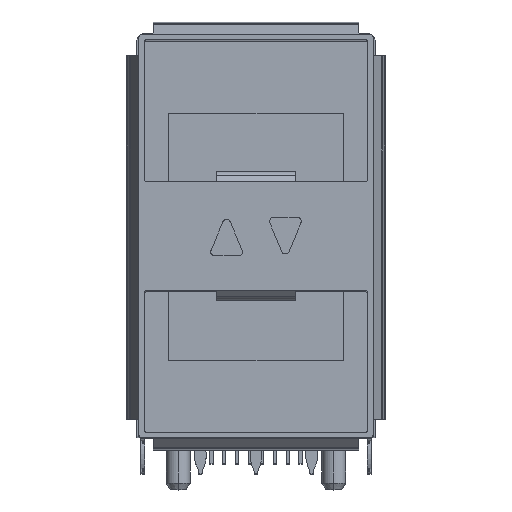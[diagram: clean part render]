
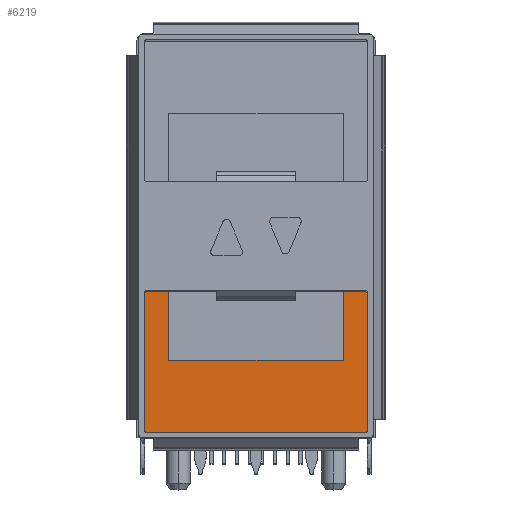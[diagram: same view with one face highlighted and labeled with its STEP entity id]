
A CAD part, top view. The second image highlights one B-rep face of the part: STEP entity #6219.
In plain terms, the highlighted planar face has unit normal (0, 0, 1).
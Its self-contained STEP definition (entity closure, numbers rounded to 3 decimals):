
#51 = LINE ( 'NONE', #19253, #12035 ) ;
#255 = CARTESIAN_POINT ( 'NONE',  ( 6.9, 9.1, -48.55 ) ) ;
#759 = CARTESIAN_POINT ( 'NONE',  ( -5.5, 9.2, -48.55 ) ) ;
#920 = VECTOR ( 'NONE', #9805, 1000. ) ;
#1349 = VERTEX_POINT ( 'NONE', #10793 ) ;
#3744 = EDGE_CURVE ( 'NONE', #7233, #8534, #22080, .T. ) ;
#4230 = DIRECTION ( 'NONE',  ( 1., 0., 0. ) ) ;
#4273 = CARTESIAN_POINT ( 'NONE',  ( -5.5, 4.85, -48.55 ) ) ;
#5863 = VERTEX_POINT ( 'NONE', #11799 ) ;
#6051 = PLANE ( 'NONE',  #16757 ) ;
#6219 = ADVANCED_FACE ( 'NONE', ( #9412 ), #6051, .F. ) ;
#7091 = AXIS2_PLACEMENT_3D ( 'NONE', #25656, #25333, #25233 ) ;
#7233 = VERTEX_POINT ( 'NONE', #19615 ) ;
#7887 = VECTOR ( 'NONE', #28597, 1000. ) ;
#7916 = LINE ( 'NONE', #28732, #7887 ) ;
#8124 = EDGE_CURVE ( 'NONE', #20301, #29019, #27678, .T. ) ;
#8534 = VERTEX_POINT ( 'NONE', #21767 ) ;
#8625 = EDGE_CURVE ( 'NONE', #24031, #10045, #18152, .T. ) ;
#8901 = EDGE_CURVE ( 'NONE', #8534, #5863, #10926, .T. ) ;
#9412 = FACE_OUTER_BOUND ( 'NONE', #11066, .T. ) ;
#9805 = DIRECTION ( 'NONE',  ( 0., 1., 0. ) ) ;
#10045 = VERTEX_POINT ( 'NONE', #31260 ) ;
#10793 = CARTESIAN_POINT ( 'NONE',  ( 6.9, 0.25, -48.55 ) ) ;
#10851 = CARTESIAN_POINT ( 'NONE',  ( 5.5, 4.85, -48.55 ) ) ;
#10926 = LINE ( 'NONE', #11126, #11283 ) ;
#11066 = EDGE_LOOP ( 'NONE', ( #26384, #21239, #13215, #12730, #11674, #25884, #16436, #14067, #28497, #15850, #11842, #20596 ) ) ;
#11126 = CARTESIAN_POINT ( 'NONE',  ( 7., 9.1, -48.55 ) ) ;
#11229 = DIRECTION ( 'NONE',  ( 0., -1., 0. ) ) ;
#11283 = VECTOR ( 'NONE', #11229, 1000. ) ;
#11440 = CIRCLE ( 'NONE', #7091, 0.1 ) ;
#11674 = ORIENTED_EDGE ( 'NONE', *, *, #22234, .F. ) ;
#11799 = CARTESIAN_POINT ( 'NONE',  ( 7., 0.35, -48.55 ) ) ;
#11842 = ORIENTED_EDGE ( 'NONE', *, *, #30490, .F. ) ;
#12035 = VECTOR ( 'NONE', #18933, 1000. ) ;
#12665 = AXIS2_PLACEMENT_3D ( 'NONE', #23026, #22819, #22705 ) ;
#12730 = ORIENTED_EDGE ( 'NONE', *, *, #8625, .F. ) ;
#12958 = LINE ( 'NONE', #28440, #920 ) ;
#13043 = DIRECTION ( 'NONE',  ( 0., 0., -1. ) ) ;
#13215 = ORIENTED_EDGE ( 'NONE', *, *, #21439, .F. ) ;
#13501 = DIRECTION ( 'NONE',  ( -1., 0., 0. ) ) ;
#13590 = EDGE_CURVE ( 'NONE', #5863, #1349, #11440, .T. ) ;
#13637 = CARTESIAN_POINT ( 'NONE',  ( -6.9, 0.25, -48.55 ) ) ;
#14067 = ORIENTED_EDGE ( 'NONE', *, *, #8124, .F. ) ;
#14461 = VECTOR ( 'NONE', #16776, 1000. ) ;
#15219 = LINE ( 'NONE', #24012, #14461 ) ;
#15850 = ORIENTED_EDGE ( 'NONE', *, *, #18440, .F. ) ;
#16436 = ORIENTED_EDGE ( 'NONE', *, *, #26075, .F. ) ;
#16612 = DIRECTION ( 'NONE',  ( -1., 0., 0. ) ) ;
#16757 = AXIS2_PLACEMENT_3D ( 'NONE', #18116, #27889, #29020 ) ;
#16776 = DIRECTION ( 'NONE',  ( -1., 0., 0. ) ) ;
#17104 = VECTOR ( 'NONE', #19441, 1000. ) ;
#17214 = DIRECTION ( 'NONE',  ( 0., 0., -1. ) ) ;
#17634 = CARTESIAN_POINT ( 'NONE',  ( -6.9, 9.2, -48.55 ) ) ;
#17843 = CIRCLE ( 'NONE', #12665, 0.1 ) ;
#18116 = CARTESIAN_POINT ( 'NONE',  ( -7.25, 25.2, -48.55 ) ) ;
#18152 = LINE ( 'NONE', #19004, #17104 ) ;
#18440 = EDGE_CURVE ( 'NONE', #23267, #21080, #17843, .T. ) ;
#18933 = DIRECTION ( 'NONE',  ( 1., 0., 0. ) ) ;
#19004 = CARTESIAN_POINT ( 'NONE',  ( 5.5, 4.85, -48.55 ) ) ;
#19253 = CARTESIAN_POINT ( 'NONE',  ( -5.5, 9.2, -48.55 ) ) ;
#19348 = CARTESIAN_POINT ( 'NONE',  ( -5.5, 4.85, -48.55 ) ) ;
#19441 = DIRECTION ( 'NONE',  ( 0., 1., 0. ) ) ;
#19615 = CARTESIAN_POINT ( 'NONE',  ( 6.9, 9.2, -48.55 ) ) ;
#19688 = VECTOR ( 'NONE', #4230, 1000. ) ;
#19740 = LINE ( 'NONE', #4273, #19688 ) ;
#20122 = DIRECTION ( 'NONE',  ( 1., 0., 0. ) ) ;
#20190 = CARTESIAN_POINT ( 'NONE',  ( 5.5, 9.2, -48.55 ) ) ;
#20301 = VERTEX_POINT ( 'NONE', #22043 ) ;
#20596 = ORIENTED_EDGE ( 'NONE', *, *, #13590, .F. ) ;
#21080 = VERTEX_POINT ( 'NONE', #26176 ) ;
#21239 = ORIENTED_EDGE ( 'NONE', *, *, #3744, .F. ) ;
#21439 = EDGE_CURVE ( 'NONE', #10045, #7233, #24506, .T. ) ;
#21767 = CARTESIAN_POINT ( 'NONE',  ( 7., 9.1, -48.55 ) ) ;
#22043 = CARTESIAN_POINT ( 'NONE',  ( -7., 9.1, -48.55 ) ) ;
#22080 = CIRCLE ( 'NONE', #29093, 0.1 ) ;
#22234 = EDGE_CURVE ( 'NONE', #29002, #24031, #19740, .T. ) ;
#22705 = DIRECTION ( 'NONE',  ( -1., 0., 0. ) ) ;
#22819 = DIRECTION ( 'NONE',  ( 0., 0., -1. ) ) ;
#23026 = CARTESIAN_POINT ( 'NONE',  ( -6.9, 0.35, -48.55 ) ) ;
#23267 = VERTEX_POINT ( 'NONE', #13637 ) ;
#24012 = CARTESIAN_POINT ( 'NONE',  ( 6.9, 0.25, -48.55 ) ) ;
#24031 = VERTEX_POINT ( 'NONE', #10851 ) ;
#24349 = VECTOR ( 'NONE', #20122, 1000. ) ;
#24409 = EDGE_CURVE ( 'NONE', #28769, #29002, #7916, .T. ) ;
#24506 = LINE ( 'NONE', #20190, #24349 ) ;
#25233 = DIRECTION ( 'NONE',  ( -1., 0., 0. ) ) ;
#25333 = DIRECTION ( 'NONE',  ( 0., 0., -1. ) ) ;
#25656 = CARTESIAN_POINT ( 'NONE',  ( 6.9, 0.35, -48.55 ) ) ;
#25884 = ORIENTED_EDGE ( 'NONE', *, *, #24409, .F. ) ;
#26075 = EDGE_CURVE ( 'NONE', #29019, #28769, #51, .T. ) ;
#26176 = CARTESIAN_POINT ( 'NONE',  ( -7., 0.35, -48.55 ) ) ;
#26384 = ORIENTED_EDGE ( 'NONE', *, *, #8901, .F. ) ;
#26674 = AXIS2_PLACEMENT_3D ( 'NONE', #31017, #17214, #16612 ) ;
#27678 = CIRCLE ( 'NONE', #26674, 0.1 ) ;
#27889 = DIRECTION ( 'NONE',  ( 0., 0., -1. ) ) ;
#28440 = CARTESIAN_POINT ( 'NONE',  ( -7., 0.35, -48.55 ) ) ;
#28497 = ORIENTED_EDGE ( 'NONE', *, *, #30089, .F. ) ;
#28597 = DIRECTION ( 'NONE',  ( 0., -1., 0. ) ) ;
#28732 = CARTESIAN_POINT ( 'NONE',  ( -5.5, 4.85, -48.55 ) ) ;
#28769 = VERTEX_POINT ( 'NONE', #759 ) ;
#29002 = VERTEX_POINT ( 'NONE', #19348 ) ;
#29019 = VERTEX_POINT ( 'NONE', #17634 ) ;
#29020 = DIRECTION ( 'NONE',  ( -1., 0., 0. ) ) ;
#29093 = AXIS2_PLACEMENT_3D ( 'NONE', #255, #13043, #13501 ) ;
#30089 = EDGE_CURVE ( 'NONE', #21080, #20301, #12958, .T. ) ;
#30490 = EDGE_CURVE ( 'NONE', #1349, #23267, #15219, .T. ) ;
#31017 = CARTESIAN_POINT ( 'NONE',  ( -6.9, 9.1, -48.55 ) ) ;
#31260 = CARTESIAN_POINT ( 'NONE',  ( 5.5, 9.2, -48.55 ) ) ;
